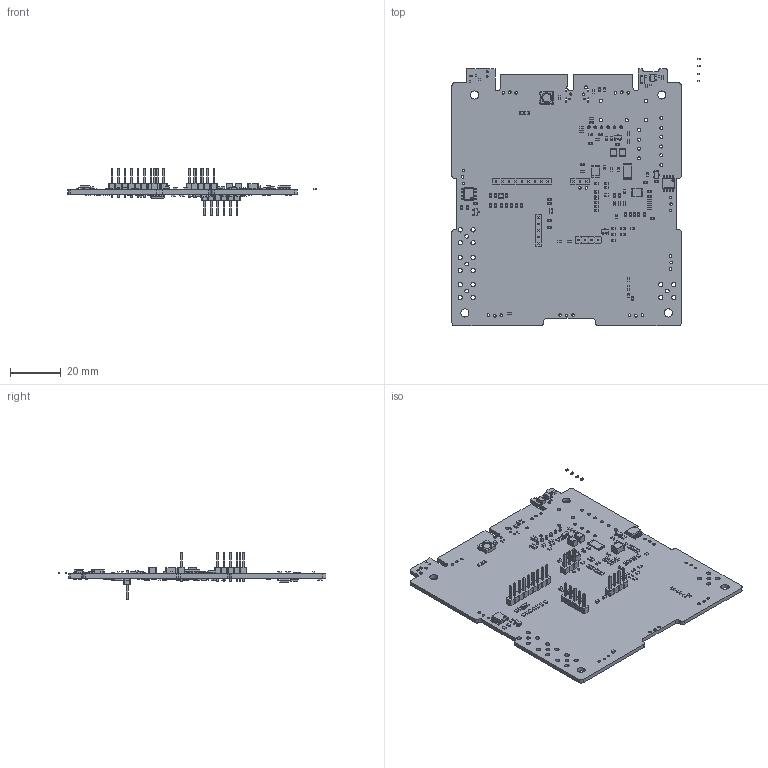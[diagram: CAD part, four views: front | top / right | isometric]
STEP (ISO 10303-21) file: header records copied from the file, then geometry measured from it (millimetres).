
FILE_DESCRIPTION(('KiCad electronic assembly'),'2;1');
FILE_NAME('mainboard.step','2021-11-08T08:48:12',('An Author'),( 'A Company'),'Open CASCADE STEP processor 6.9', 'KiCad to STEP converter','Unknown');
FILE_SCHEMA(('AUTOMOTIVE_DESIGN { 1 0 10303 214 1 1 1 1 }'));
Length unit declared in the file: millimetre
Products named in the file (48): Open CASCADE STEP translator 6.9 1; C_0402_1005Metric; SOLID; SOT-23-5; R_0402_1005Metric; C_1206_3216Metric; C_0603_1608Metric; SOT-23; SOIC-8_3.9x4.9mm_P1.27mm; R_0603_1608Metric; R_0805_2012Metric; L_0805_2012Metric; PinHeader_1x04_P2.54mm_Vertical; SOT-363_SC-70-6; PinHeader_1x09_P2.54mm_Vertical; LED_0603_1608Metric; L_1812_4532Metric; L_Wuerth_MAPI-2510; PinHeader_1x06_P2.54mm_Vertical; PinHeader_1x03_P2.54mm_Vertical; QFN-24-1EP_4x4mm_P0.5mm_EP2.6x2.6mm; LED_WS2812B_PLCC4_5.0x5.0mm_P3.2mm; PinHeader_1x05_P2.54mm_Vertical; R_2512_6332Metric; C_1210_3225Metric; COMPOUND
Assembly tree (220 placements, depth 3):
  Open CASCADE STEP translator 6.9 1
    C_0402_1005Metric  x10
      SOLID
    SOT-23-5
      SOLID
    R_0402_1005Metric  x13
      SOLID
    C_1206_3216Metric
      SOLID
    C_0603_1608Metric  x45
      SOLID
    SOT-23  x5
      SOLID
    SOIC-8_3.9x4.9mm_P1.27mm  x3
      SOLID
    R_0603_1608Metric  x92
      SOLID
    R_0805_2012Metric  x4
      SOLID
    L_0805_2012Metric
      SOLID
    PinHeader_1x04_P2.54mm_Vertical
      SOLID
    SOT-363_SC-70-6  x7
      SOLID
    PinHeader_1x09_P2.54mm_Vertical
      SOLID
    LED_0603_1608Metric
      SOLID
    L_1812_4532Metric  x2
      SOLID
    L_Wuerth_MAPI-2510
      SOLID
    PinHeader_1x06_P2.54mm_Vertical
      SOLID
    PinHeader_1x03_P2.54mm_Vertical
      SOLID
    QFN-24-1EP_4x4mm_P0.5mm_EP2.6x2.6mm
      SOLID
    LED_WS2812B_PLCC4_5.0x5.0mm_P3.2mm
      SOLID
    PinHeader_1x05_P2.54mm_Vertical
      SOLID
    R_2512_6332Metric
      SOLID
    C_1210_3225Metric  x2
      SOLID
    COMPOUND
Bounding box: 97.54 x 105.32 x 18.75 mm (x, y, z)
Volume: 14502.2 mm3; surface area: 21635.5 mm2
Topology: 197 solids, 197 shells, 7511 faces, 19286 edges, 12344 vertices
Faces by surface type: plane 4873, cylinder 2163, bspline 470, sphere 4, cone 1
Full cylindrical faces by diameter (mm): 0.5 x1, 0.6 x3, 0.65 x2, 0.7 x2, 0.9 x2, 1 x29, 1.016 x24, 1.2 x11, 1.295 x5, 1.5 x4, 1.7 x16, 3.175 x4, 3.333 x1
Entity records: 135892 total; most frequent: CARTESIAN_POINT 24266, DIRECTION 18439, LINE 12658, VECTOR 12658, ORIENTED_EDGE 9720, PCURVE 9720, DEFINITIONAL_REPRESENTATION 9720, EDGE_CURVE 4860
